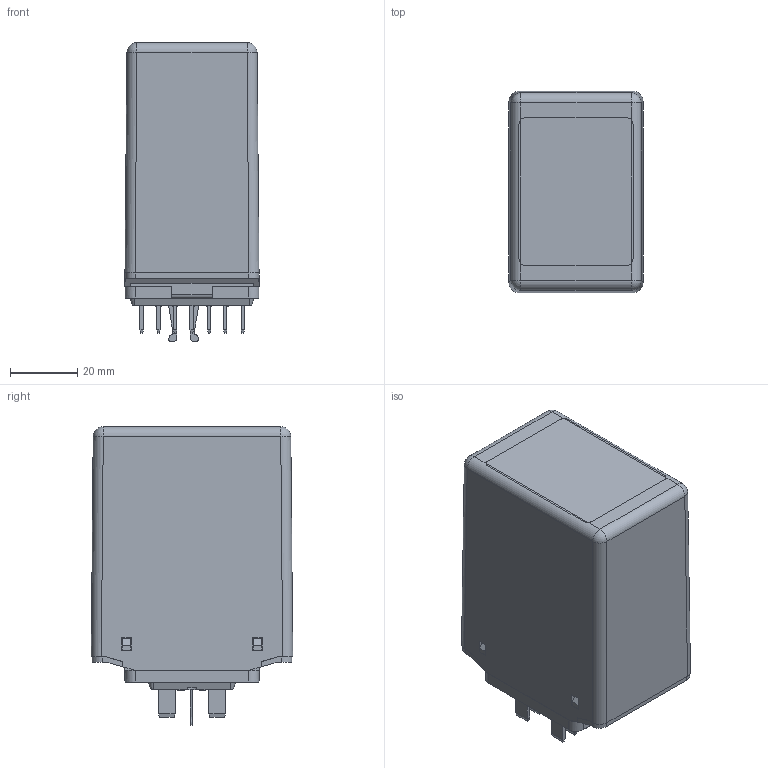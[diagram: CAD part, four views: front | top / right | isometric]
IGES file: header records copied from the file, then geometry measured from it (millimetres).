
Global section: file name: No Iges File Name specified; native system: Autodesk Inventor 2011; preprocessor: AutoDesk Inventor Iges Exporter R2011; author: oey; date: 20110307.145558; units: millimetre
Bounding box: 40 x 60.01 x 88.95 mm (x, y, z)
Volume: 43297.2 mm3; surface area: 46870.2 mm2
Topology: 1 solids, 3 shells, 1659 faces, 4987 edges, 3254 vertices
Faces by surface type: plane 758, bspline 542, revolution 169, cylinder 148, sphere 32, cone 6, torus 4
